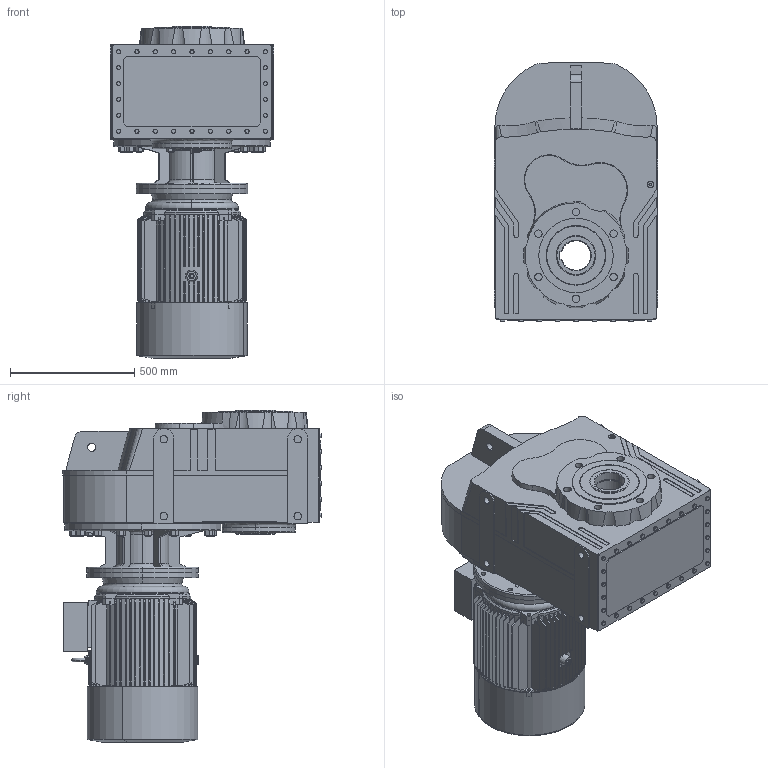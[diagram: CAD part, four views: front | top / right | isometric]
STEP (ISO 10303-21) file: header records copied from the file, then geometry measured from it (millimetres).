
FILE_DESCRIPTION (( 'STEP AP203' ), '1' );
FILE_NAME ('DV972-DV973-M3-225S.STEP', '2019-07-23T08:06:20', ( '' ), ( '' ), 'SwSTEP 2.0', 'SolidWorks 2012', '' );
FILE_SCHEMA (( 'CONFIG_CONTROL_DESIGN' ));
Products named in the file (12): M3-225S-4p-FF-B5; DV972-DV973-M3-225S; 225-2-ª+-_-++ñ; Y2-225+¦i-_-++ñ; shaft_225-4; Y2-200-4.6.8+ª-¯ª­-È®+_-++ñ; Eyebolts GB_GB_FASTENER_SCREWS_FRS M16-N; DN_97_3_0_A-B22_B5_ML24A_0_0_0_0_0_0_0_0_0_0_0_0_M1; Y2-225SB5+À+¿_-++ñ; ML24A_Varsayìlan; D973_Varsayìlan; 93225B5_Varsayìlan
Assembly tree (11 placements, depth 3):
  DV972-DV973-M3-225S
    DN_97_3_0_A-B22_B5_ML24A_0_0_0_0_0_0_0_0_0_0_0_0_M1
      D973_Varsayìlan
      93225B5_Varsayìlan
      ML24A_Varsayìlan
    M3-225S-4p-FF-B5
      Y2-225SB5+À+¿_-++ñ
      Eyebolts GB_GB_FASTENER_SCREWS_FRS M16-N
      Y2-200-4.6.8+ª-¯ª­-È®+_-++ñ
      225-2-ª+-_-++ñ
      Y2-225+¦i-_-++ñ
      shaft_225-4
Bounding box: 660 x 1043.11 x 1338.5 mm (x, y, z)
Volume: 261604192.1 mm3; surface area: 8735745.8 mm2
Topology: 11 solids, 12 shells, 2345 faces, 5719 edges, 3549 vertices
Faces by surface type: plane 930, cone 766, cylinder 570, bspline 50, torus 29
Entity records: 79441 total; most frequent: CARTESIAN_POINT 24184, ORIENTED_EDGE 11434, DIRECTION 11047, EDGE_CURVE 5717, AXIS2_PLACEMENT_3D 4343, VERTEX_POINT 3549, EDGE_LOOP 2588, VECTOR 2361
